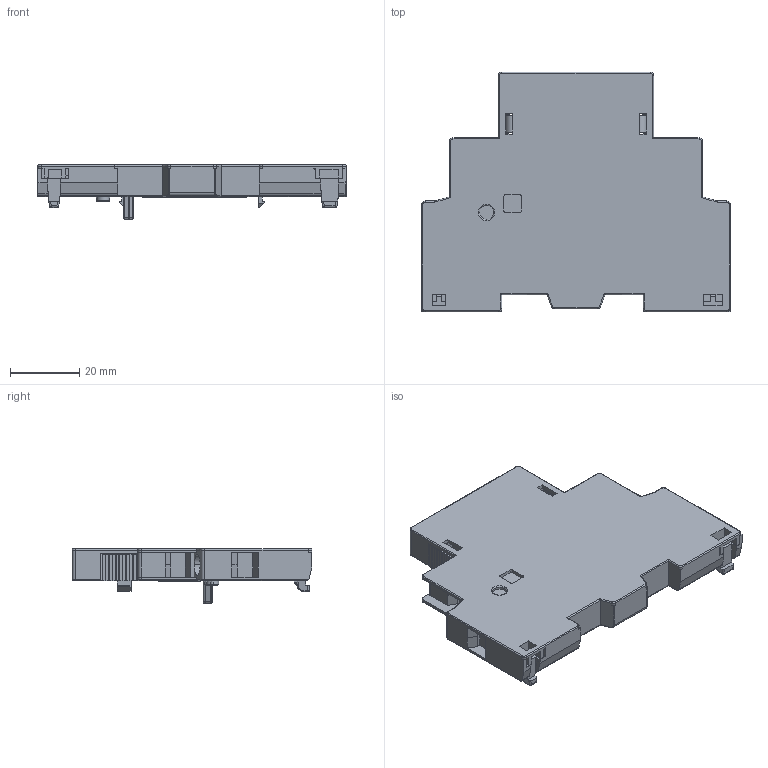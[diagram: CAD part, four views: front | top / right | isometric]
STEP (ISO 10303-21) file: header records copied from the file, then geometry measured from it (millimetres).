
FILE_DESCRIPTION((''),'2;1');
FILE_NAME('X52','2024-04-29T14:56:58',('dyhoumm'),(''),'CREO PARAMETRIC BY PTC INC, 2020044','CREO PARAMETRIC BY PTC INC, 2020044','');
FILE_SCHEMA(('CONFIG_CONTROL_DESIGN','SHAPE_APPEARANCE_LAYERS_GROUPS'));
Length unit declared in the file: millimetre
Products named in the file (1): X52
Bounding box: 89 x 69.2 x 15.6 mm (x, y, z)
Volume: 42597.7 mm3; surface area: 15644.8 mm2
Topology: 1 solids, 15 shells, 697 faces, 1920 edges, 1254 vertices
Faces by surface type: plane 466, cylinder 176, torus 23, cone 17, bspline 12, sphere 3
Entity records: 28883 total; most frequent: CARTESIAN_POINT 6249, ORIENTED_EDGE 3818, DIRECTION 3563, EDGE_CURVE 1917, VECTOR 1431, LINE 1431, VERTEX_POINT 1254, AXIS2_PLACEMENT_3D 1066
